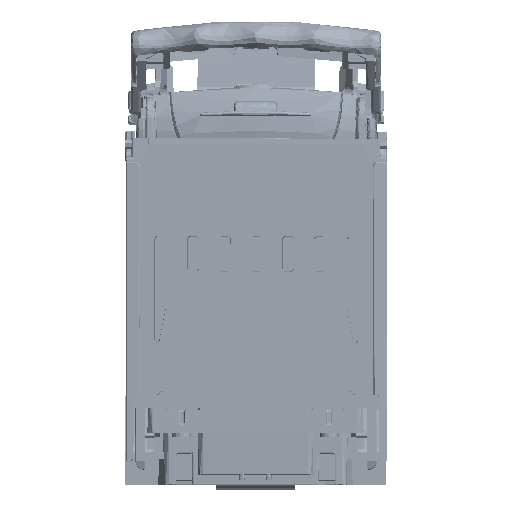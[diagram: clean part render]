
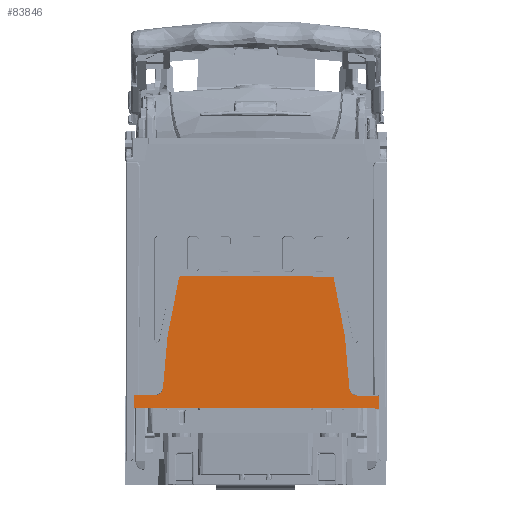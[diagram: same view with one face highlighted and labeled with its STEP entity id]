
A CAD part, left-side view. The second image highlights one B-rep face of the part: STEP entity #83846.
In plain terms, the highlighted planar face has unit normal (-1, 0, 0).
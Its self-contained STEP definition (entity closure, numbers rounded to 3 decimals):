
#68653=CIRCLE('',#300093,3.);
#68654=CIRCLE('',#300095,3.);
#68655=CIRCLE('',#300098,0.5);
#68656=CIRCLE('',#300100,0.5);
#83846=ADVANCED_FACE('',(#103036),#96659,.F.);
#96659=PLANE('',#301212);
#103036=FACE_OUTER_BOUND('',#117191,.T.);
#117191=EDGE_LOOP('',(#141639,#141640,#141641,#141642,#141643,#141644,#141645,
#141646,#141647,#141648,#141649,#141650,#141651,#141652));
#141639=ORIENTED_EDGE('',*,*,#231719,.T.);
#141640=ORIENTED_EDGE('',*,*,#231730,.F.);
#141641=ORIENTED_EDGE('',*,*,#231721,.T.);
#141642=ORIENTED_EDGE('',*,*,#231729,.F.);
#141643=ORIENTED_EDGE('',*,*,#231724,.T.);
#141644=ORIENTED_EDGE('',*,*,#231728,.F.);
#141645=ORIENTED_EDGE('',*,*,#231731,.T.);
#141646=ORIENTED_EDGE('',*,*,#231714,.F.);
#141647=ORIENTED_EDGE('',*,*,#231732,.T.);
#141648=ORIENTED_EDGE('',*,*,#231646,.T.);
#141649=ORIENTED_EDGE('',*,*,#228847,.F.);
#141650=ORIENTED_EDGE('',*,*,#231743,.F.);
#141651=ORIENTED_EDGE('',*,*,#231801,.T.);
#141652=ORIENTED_EDGE('',*,*,#231717,.F.);
#205530=VERTEX_POINT('',#372182);
#205531=VERTEX_POINT('',#372184);
#207618=VERTEX_POINT('',#386413);
#207633=VERTEX_POINT('',#387348);
#207634=VERTEX_POINT('',#387350);
#207635=VERTEX_POINT('',#387354);
#207636=VERTEX_POINT('',#387356);
#207637=VERTEX_POINT('',#387360);
#207638=VERTEX_POINT('',#387364);
#207639=VERTEX_POINT('',#387365);
#207640=VERTEX_POINT('',#387370);
#207641=VERTEX_POINT('',#387371);
#207642=VERTEX_POINT('',#387376);
#207645=VERTEX_POINT('',#387461);
#228847=EDGE_CURVE('',#205530,#205531,#265550,.T.);
#231646=EDGE_CURVE('',#207618,#205531,#266767,.T.);
#231714=EDGE_CURVE('',#207633,#207634,#68653,.T.);
#231717=EDGE_CURVE('',#207635,#207636,#68654,.T.);
#231719=EDGE_CURVE('',#207635,#207637,#266815,.T.);
#231721=EDGE_CURVE('',#207638,#207639,#68655,.T.);
#231724=EDGE_CURVE('',#207640,#207641,#68656,.T.);
#231728=EDGE_CURVE('',#207642,#207641,#266822,.T.);
#231729=EDGE_CURVE('',#207640,#207639,#266823,.T.);
#231730=EDGE_CURVE('',#207638,#207637,#266824,.T.);
#231731=EDGE_CURVE('',#207642,#207634,#266825,.T.);
#231732=EDGE_CURVE('',#207633,#207618,#266826,.T.);
#231743=EDGE_CURVE('',#207645,#205530,#266834,.T.);
#231801=EDGE_CURVE('',#207645,#207636,#266869,.T.);
#265550=LINE('',#372183,#282424);
#266767=LINE('',#386412,#283641);
#266815=LINE('',#387359,#283689);
#266822=LINE('',#387377,#283696);
#266823=LINE('',#387379,#283697);
#266824=LINE('',#387381,#283698);
#266825=LINE('',#387383,#283699);
#266826=LINE('',#387385,#283700);
#266834=LINE('',#387462,#283708);
#266869=LINE('',#388599,#283743);
#282424=VECTOR('',#316915,1.);
#283641=VECTOR('',#321000,1.);
#283689=VECTOR('',#321146,1.);
#283696=VECTOR('',#321163,1.);
#283697=VECTOR('',#321166,1.);
#283698=VECTOR('',#321169,1.);
#283699=VECTOR('',#321172,1.);
#283700=VECTOR('',#321175,1.);
#283708=VECTOR('',#321195,1.);
#283743=VECTOR('',#321316,1.);
#300093=AXIS2_PLACEMENT_3D('',#387349,#321135,#321136);
#300095=AXIS2_PLACEMENT_3D('',#387355,#321141,#321142);
#300098=AXIS2_PLACEMENT_3D('',#387363,#321150,#321151);
#300100=AXIS2_PLACEMENT_3D('',#387369,#321156,#321157);
#301212=AXIS2_PLACEMENT_3D('',#401622,#324443,#324444);
#316915=DIRECTION('',(0.,1.,0.002));
#321000=DIRECTION('',(0.,0.006,-1.));
#321135=DIRECTION('',(-1.,0.,0.));
#321136=DIRECTION('',(0.,1.,0.002));
#321141=DIRECTION('',(-1.,0.,0.));
#321142=DIRECTION('',(0.,1.,0.002));
#321146=DIRECTION('',(0.,0.085,0.996));
#321150=DIRECTION('',(-1.,0.,0.));
#321151=DIRECTION('',(0.,1.,0.002));
#321156=DIRECTION('',(-1.,0.,0.));
#321157=DIRECTION('',(0.,1.,0.002));
#321163=DIRECTION('',(0.,-0.193,0.981));
#321166=DIRECTION('',(0.,-1.,-0.002));
#321169=DIRECTION('',(0.,-0.189,-0.982));
#321172=DIRECTION('',(0.,0.089,-0.996));
#321175=DIRECTION('',(0.,1.,0.002));
#321195=DIRECTION('',(0.,-0.003,-1.));
#321316=DIRECTION('',(0.,1.,0.002));
#324443=DIRECTION('',(1.,0.,0.));
#324444=DIRECTION('',(0.,-1.,-0.002));
#372182=CARTESIAN_POINT('',(-277.559,-46.679,29.156));
#372183=CARTESIAN_POINT('',(-277.56,-0.254,29.237));
#372184=CARTESIAN_POINT('',(-277.561,46.161,29.318));
#386412=CARTESIAN_POINT('',(-277.561,45.58,124.343));
#386413=CARTESIAN_POINT('',(-277.561,46.131,34.218));
#387348=CARTESIAN_POINT('',(-277.561,38.075,34.204));
#387349=CARTESIAN_POINT('',(-277.561,38.07,37.204));
#387350=CARTESIAN_POINT('',(-277.561,35.082,36.937));
#387354=CARTESIAN_POINT('',(-277.559,-35.616,36.814));
#387355=CARTESIAN_POINT('',(-277.559,-38.605,37.07));
#387356=CARTESIAN_POINT('',(-277.559,-38.6,34.07));
#387359=CARTESIAN_POINT('',(-277.559,-35.833,34.288));
#387360=CARTESIAN_POINT('',(-277.559,-33.912,56.688));
#387363=CARTESIAN_POINT('',(-277.56,-29.163,78.706));
#387364=CARTESIAN_POINT('',(-277.56,-29.654,78.801));
#387365=CARTESIAN_POINT('',(-277.56,-29.164,79.206));
#387369=CARTESIAN_POINT('',(-277.561,28.483,78.807));
#387370=CARTESIAN_POINT('',(-277.561,28.482,79.307));
#387371=CARTESIAN_POINT('',(-277.561,28.973,78.903));
#387376=CARTESIAN_POINT('',(-277.561,33.309,56.805));
#387377=CARTESIAN_POINT('',(-277.561,33.309,56.805));
#387379=CARTESIAN_POINT('',(-277.56,-0.341,79.257));
#387381=CARTESIAN_POINT('',(-277.559,-33.912,56.688));
#387383=CARTESIAN_POINT('',(-277.561,35.307,34.412));
#387385=CARTESIAN_POINT('',(-277.561,45.738,34.217));
#387461=CARTESIAN_POINT('',(-277.559,-46.666,34.056));
#387462=CARTESIAN_POINT('',(-277.559,-46.424,126.591));
#388599=CARTESIAN_POINT('',(-277.559,-46.262,34.057));
#401622=CARTESIAN_POINT('',(-277.56,-0.254,29.237));
